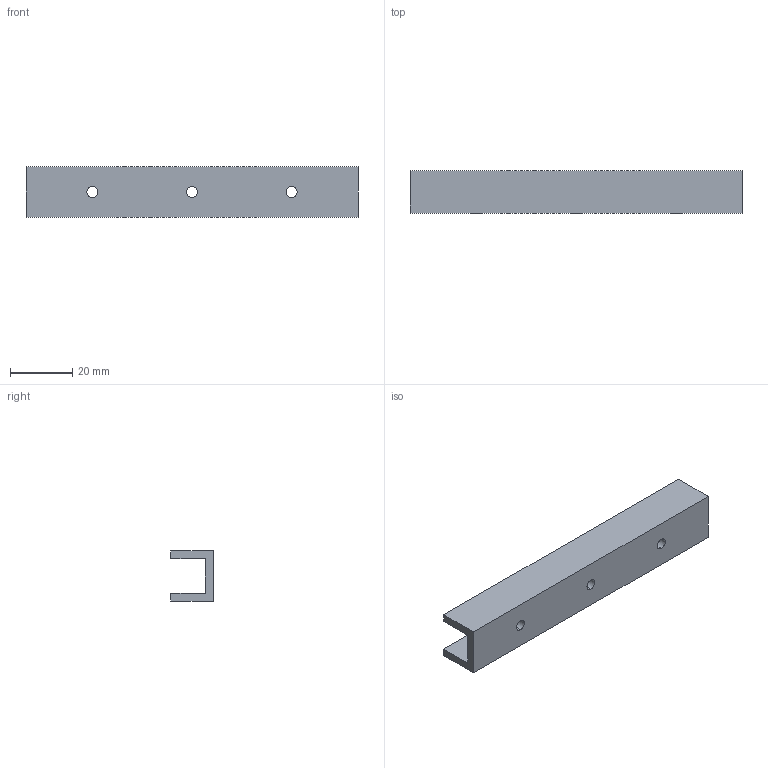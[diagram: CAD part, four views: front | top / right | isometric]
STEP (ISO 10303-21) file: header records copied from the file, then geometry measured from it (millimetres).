
FILE_DESCRIPTION (( 'STEP AP214' ), '1' );
FILE_NAME ('4030_POCKET_PASS-THRU_DBL_CLIP_SER.STEP', '2025-06-17T15:15:29', ( '' ), ( '' ), 'SwSTEP 2.0', 'SolidWorks 2025', '' );
FILE_SCHEMA (( 'AUTOMOTIVE_DESIGN' ));
Length unit declared in the file: inch
Products named in the file (1): 4030_POCKET_PASS-THRU_DBL_CLIP_SER
Bounding box: 106.68 x 13.54 x 16.08 mm (x, y, z)
Volume: 10241.3 mm3; surface area: 8884.5 mm2
Topology: 1 solids, 1 shells, 16 faces, 42 edges, 28 vertices
Faces by surface type: plane 10, cylinder 6
Entity records: 537 total; most frequent: DIRECTION 88, CARTESIAN_POINT 87, ORIENTED_EDGE 84, EDGE_CURVE 42, VECTOR 30, LINE 30, AXIS2_PLACEMENT_3D 29, VERTEX_POINT 28
